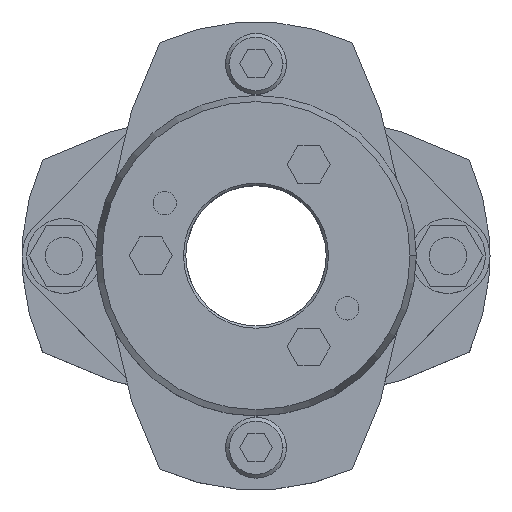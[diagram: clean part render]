
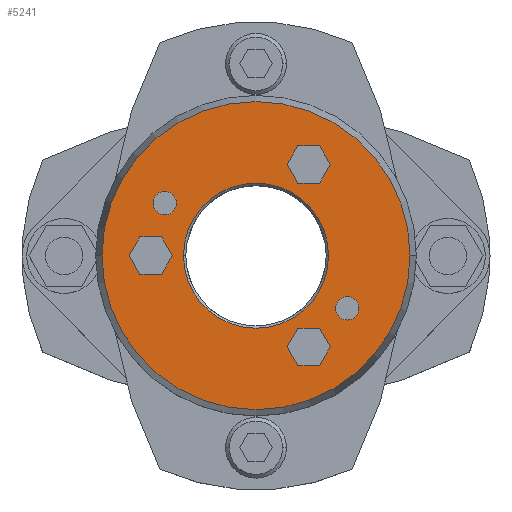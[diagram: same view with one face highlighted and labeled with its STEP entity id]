
A CAD part, top view. The second image highlights one B-rep face of the part: STEP entity #5241.
In plain terms, the highlighted planar face has unit normal (0, 0, 1).
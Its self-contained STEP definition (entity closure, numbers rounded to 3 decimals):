
#857=CARTESIAN_POINT('',(-15.5,0.,42.0));
#858=VERTEX_POINT('',#857);
#874=CARTESIAN_POINT('',(15.5,0.,42.0));
#875=VERTEX_POINT('',#874);
#882=CARTESIAN_POINT('',(0.,0.,42.0));
#883=DIRECTION('',(0.0,0.0,1.0));
#884=DIRECTION('',(-1.0,0.0,0.0));
#885=AXIS2_PLACEMENT_3D('',#882,#883,#884);
#886=CIRCLE('',#885,15.5);
#887=EDGE_CURVE('',#875,#858,#886,.T.);
#1045=CARTESIAN_POINT('',(32.91,0.,42.0));
#1046=VERTEX_POINT('',#1045);
#1053=CARTESIAN_POINT('',(-32.91,0.,42.0));
#1054=VERTEX_POINT('',#1053);
#1055=CARTESIAN_POINT('',(0.,0.,42.0));
#1056=DIRECTION('',(0.0,0.0,-1.0));
#1057=DIRECTION('',(1.0,0.0,0.0));
#1058=AXIS2_PLACEMENT_3D('',#1055,#1056,#1057);
#1059=CIRCLE('',#1058,32.91);
#1060=EDGE_CURVE('',#1046,#1054,#1059,.T.);
#1155=CARTESIAN_POINT('',(16.986,-11.25,42.0));
#1156=VERTEX_POINT('',#1155);
#1172=CARTESIAN_POINT('',(21.986,-11.25,42.0));
#1173=VERTEX_POINT('',#1172);
#1180=CARTESIAN_POINT('',(19.486,-11.25,42.0));
#1181=DIRECTION('',(0.0,0.0,-1.0));
#1182=DIRECTION('',(-1.0,0.0,0.0));
#1183=AXIS2_PLACEMENT_3D('',#1180,#1181,#1182);
#1184=CIRCLE('',#1183,2.5);
#1185=EDGE_CURVE('',#1156,#1173,#1184,.T.);
#1197=CARTESIAN_POINT('',(-21.986,11.25,42.0));
#1198=VERTEX_POINT('',#1197);
#1214=CARTESIAN_POINT('',(-16.986,11.25,42.0));
#1215=VERTEX_POINT('',#1214);
#1222=CARTESIAN_POINT('',(-19.486,11.25,42.0));
#1223=DIRECTION('',(0.0,0.0,-1.0));
#1224=DIRECTION('',(-1.0,0.0,0.0));
#1225=AXIS2_PLACEMENT_3D('',#1222,#1223,#1224);
#1226=CIRCLE('',#1225,2.5);
#1227=EDGE_CURVE('',#1198,#1215,#1226,.T.);
#4268=CARTESIAN_POINT('',(-19.486,11.25,42.0));
#4269=DIRECTION('',(0.0,0.0,-1.0));
#4270=DIRECTION('',(-1.0,0.0,0.0));
#4271=AXIS2_PLACEMENT_3D('',#4268,#4269,#4270);
#4272=CIRCLE('',#4271,2.5);
#4273=EDGE_CURVE('',#1215,#1198,#4272,.T.);
#4302=CARTESIAN_POINT('',(19.486,-11.25,42.0));
#4303=DIRECTION('',(0.0,0.0,-1.0));
#4304=DIRECTION('',(-1.0,0.0,0.0));
#4305=AXIS2_PLACEMENT_3D('',#4302,#4303,#4304);
#4306=CIRCLE('',#4305,2.5);
#4307=EDGE_CURVE('',#1173,#1156,#4306,.T.);
#4345=CARTESIAN_POINT('',(-27.119,0.,42.0));
#4346=VERTEX_POINT('',#4345);
#4353=CARTESIAN_POINT('',(-24.809,-4.,42.0));
#4354=VERTEX_POINT('',#4353);
#4355=CARTESIAN_POINT('',(-24.809,-4.,42.0));
#4356=DIRECTION('',(-0.5,0.866,0.0));
#4357=VECTOR('',#4356,4.619);
#4358=LINE('',#4355,#4357);
#4359=EDGE_CURVE('',#4354,#4346,#4358,.T.);
#4383=CARTESIAN_POINT('',(-24.809,4.,42.0));
#4384=VERTEX_POINT('',#4383);
#4391=CARTESIAN_POINT('',(-27.119,0.,42.0));
#4392=DIRECTION('',(0.5,0.866,0.0));
#4393=VECTOR('',#4392,4.619);
#4394=LINE('',#4391,#4393);
#4395=EDGE_CURVE('',#4346,#4384,#4394,.T.);
#4414=CARTESIAN_POINT('',(-20.191,4.,42.0));
#4415=VERTEX_POINT('',#4414);
#4422=CARTESIAN_POINT('',(-24.809,4.,42.0));
#4423=DIRECTION('',(1.0,0.0,0.0));
#4424=VECTOR('',#4423,4.619);
#4425=LINE('',#4422,#4424);
#4426=EDGE_CURVE('',#4384,#4415,#4425,.T.);
#4445=CARTESIAN_POINT('',(-17.881,0.,42.0));
#4446=VERTEX_POINT('',#4445);
#4453=CARTESIAN_POINT('',(-20.191,4.,42.0));
#4454=DIRECTION('',(0.5,-0.866,0.0));
#4455=VECTOR('',#4454,4.619);
#4456=LINE('',#4453,#4455);
#4457=EDGE_CURVE('',#4415,#4446,#4456,.T.);
#4476=CARTESIAN_POINT('',(-20.191,-4.,42.0));
#4477=VERTEX_POINT('',#4476);
#4484=CARTESIAN_POINT('',(-17.881,0.,42.0));
#4485=DIRECTION('',(-0.5,-0.866,0.0));
#4486=VECTOR('',#4485,4.619);
#4487=LINE('',#4484,#4486);
#4488=EDGE_CURVE('',#4446,#4477,#4487,.T.);
#4506=CARTESIAN_POINT('',(-20.191,-4.,42.0));
#4507=DIRECTION('',(-1.0,0.0,0.0));
#4508=VECTOR('',#4507,4.619);
#4509=LINE('',#4506,#4508);
#4510=EDGE_CURVE('',#4477,#4354,#4509,.T.);
#4545=CARTESIAN_POINT('',(6.631,19.486,42.0));
#4546=VERTEX_POINT('',#4545);
#4553=CARTESIAN_POINT('',(8.941,15.486,42.0));
#4554=VERTEX_POINT('',#4553);
#4555=CARTESIAN_POINT('',(8.941,15.486,42.0));
#4556=DIRECTION('',(-0.5,0.866,0.0));
#4557=VECTOR('',#4556,4.619);
#4558=LINE('',#4555,#4557);
#4559=EDGE_CURVE('',#4554,#4546,#4558,.T.);
#4583=CARTESIAN_POINT('',(8.941,23.486,42.0));
#4584=VERTEX_POINT('',#4583);
#4591=CARTESIAN_POINT('',(6.631,19.486,42.0));
#4592=DIRECTION('',(0.5,0.866,0.0));
#4593=VECTOR('',#4592,4.619);
#4594=LINE('',#4591,#4593);
#4595=EDGE_CURVE('',#4546,#4584,#4594,.T.);
#4614=CARTESIAN_POINT('',(13.559,23.486,42.0));
#4615=VERTEX_POINT('',#4614);
#4622=CARTESIAN_POINT('',(8.941,23.486,42.0));
#4623=DIRECTION('',(1.0,0.0,0.0));
#4624=VECTOR('',#4623,4.619);
#4625=LINE('',#4622,#4624);
#4626=EDGE_CURVE('',#4584,#4615,#4625,.T.);
#4645=CARTESIAN_POINT('',(15.869,19.486,42.0));
#4646=VERTEX_POINT('',#4645);
#4653=CARTESIAN_POINT('',(13.559,23.486,42.0));
#4654=DIRECTION('',(0.5,-0.866,0.0));
#4655=VECTOR('',#4654,4.619);
#4656=LINE('',#4653,#4655);
#4657=EDGE_CURVE('',#4615,#4646,#4656,.T.);
#4676=CARTESIAN_POINT('',(13.559,15.486,42.0));
#4677=VERTEX_POINT('',#4676);
#4684=CARTESIAN_POINT('',(15.869,19.486,42.0));
#4685=DIRECTION('',(-0.5,-0.866,0.0));
#4686=VECTOR('',#4685,4.619);
#4687=LINE('',#4684,#4686);
#4688=EDGE_CURVE('',#4646,#4677,#4687,.T.);
#4706=CARTESIAN_POINT('',(13.559,15.486,42.0));
#4707=DIRECTION('',(-1.0,0.0,0.0));
#4708=VECTOR('',#4707,4.619);
#4709=LINE('',#4706,#4708);
#4710=EDGE_CURVE('',#4677,#4554,#4709,.T.);
#4745=CARTESIAN_POINT('',(6.631,-19.486,42.0));
#4746=VERTEX_POINT('',#4745);
#4753=CARTESIAN_POINT('',(8.941,-23.486,42.0));
#4754=VERTEX_POINT('',#4753);
#4755=CARTESIAN_POINT('',(8.941,-23.486,42.0));
#4756=DIRECTION('',(-0.5,0.866,0.0));
#4757=VECTOR('',#4756,4.619);
#4758=LINE('',#4755,#4757);
#4759=EDGE_CURVE('',#4754,#4746,#4758,.T.);
#4783=CARTESIAN_POINT('',(8.941,-15.486,42.0));
#4784=VERTEX_POINT('',#4783);
#4791=CARTESIAN_POINT('',(6.631,-19.486,42.0));
#4792=DIRECTION('',(0.5,0.866,0.0));
#4793=VECTOR('',#4792,4.619);
#4794=LINE('',#4791,#4793);
#4795=EDGE_CURVE('',#4746,#4784,#4794,.T.);
#4814=CARTESIAN_POINT('',(13.559,-15.486,42.0));
#4815=VERTEX_POINT('',#4814);
#4822=CARTESIAN_POINT('',(8.941,-15.486,42.0));
#4823=DIRECTION('',(1.0,0.0,0.0));
#4824=VECTOR('',#4823,4.619);
#4825=LINE('',#4822,#4824);
#4826=EDGE_CURVE('',#4784,#4815,#4825,.T.);
#4845=CARTESIAN_POINT('',(15.869,-19.486,42.0));
#4846=VERTEX_POINT('',#4845);
#4853=CARTESIAN_POINT('',(13.559,-15.486,42.0));
#4854=DIRECTION('',(0.5,-0.866,0.0));
#4855=VECTOR('',#4854,4.619);
#4856=LINE('',#4853,#4855);
#4857=EDGE_CURVE('',#4815,#4846,#4856,.T.);
#4876=CARTESIAN_POINT('',(13.559,-23.486,42.0));
#4877=VERTEX_POINT('',#4876);
#4884=CARTESIAN_POINT('',(15.869,-19.486,42.0));
#4885=DIRECTION('',(-0.5,-0.866,0.0));
#4886=VECTOR('',#4885,4.619);
#4887=LINE('',#4884,#4886);
#4888=EDGE_CURVE('',#4846,#4877,#4887,.T.);
#4906=CARTESIAN_POINT('',(13.559,-23.486,42.0));
#4907=DIRECTION('',(-1.0,0.0,0.0));
#4908=VECTOR('',#4907,4.619);
#4909=LINE('',#4906,#4908);
#4910=EDGE_CURVE('',#4877,#4754,#4909,.T.);
#5180=CARTESIAN_POINT('',(0.,0.,42.0));
#5181=DIRECTION('',(0.0,0.0,-1.0));
#5182=DIRECTION('',(1.0,0.0,0.0));
#5183=AXIS2_PLACEMENT_3D('',#5180,#5181,#5182);
#5184=CIRCLE('',#5183,32.91);
#5185=EDGE_CURVE('',#1054,#1046,#5184,.T.);
#5190=CARTESIAN_POINT('',(-3.114,0.,42.0));
#5191=DIRECTION('',(0.0,0.0,1.0));
#5192=DIRECTION('',(-1.0,0.0,0.0));
#5193=AXIS2_PLACEMENT_3D('',#5190,#5191,#5192);
#5194=PLANE('',#5193);
#5195=ORIENTED_EDGE('',*,*,#5185,.F.);
#5196=ORIENTED_EDGE('',*,*,#1060,.F.);
#5197=EDGE_LOOP('',(#5195,#5196));
#5198=FACE_OUTER_BOUND('',#5197,.T.);
#5199=ORIENTED_EDGE('',*,*,#1227,.T.);
#5200=ORIENTED_EDGE('',*,*,#4273,.T.);
#5201=EDGE_LOOP('',(#5199,#5200));
#5202=FACE_BOUND('',#5201,.T.);
#5203=ORIENTED_EDGE('',*,*,#1185,.T.);
#5204=ORIENTED_EDGE('',*,*,#4307,.T.);
#5205=EDGE_LOOP('',(#5203,#5204));
#5206=FACE_BOUND('',#5205,.T.);
#5207=ORIENTED_EDGE('',*,*,#4359,.T.);
#5208=ORIENTED_EDGE('',*,*,#4395,.T.);
#5209=ORIENTED_EDGE('',*,*,#4426,.T.);
#5210=ORIENTED_EDGE('',*,*,#4457,.T.);
#5211=ORIENTED_EDGE('',*,*,#4488,.T.);
#5212=ORIENTED_EDGE('',*,*,#4510,.T.);
#5213=EDGE_LOOP('',(#5207,#5208,#5209,#5210,#5211,#5212));
#5214=FACE_BOUND('',#5213,.T.);
#5215=ORIENTED_EDGE('',*,*,#4559,.T.);
#5216=ORIENTED_EDGE('',*,*,#4595,.T.);
#5217=ORIENTED_EDGE('',*,*,#4626,.T.);
#5218=ORIENTED_EDGE('',*,*,#4657,.T.);
#5219=ORIENTED_EDGE('',*,*,#4688,.T.);
#5220=ORIENTED_EDGE('',*,*,#4710,.T.);
#5221=EDGE_LOOP('',(#5215,#5216,#5217,#5218,#5219,#5220));
#5222=FACE_BOUND('',#5221,.T.);
#5223=ORIENTED_EDGE('',*,*,#4759,.T.);
#5224=ORIENTED_EDGE('',*,*,#4795,.T.);
#5225=ORIENTED_EDGE('',*,*,#4826,.T.);
#5226=ORIENTED_EDGE('',*,*,#4857,.T.);
#5227=ORIENTED_EDGE('',*,*,#4888,.T.);
#5228=ORIENTED_EDGE('',*,*,#4910,.T.);
#5229=EDGE_LOOP('',(#5223,#5224,#5225,#5226,#5227,#5228));
#5230=FACE_BOUND('',#5229,.T.);
#5231=ORIENTED_EDGE('',*,*,#887,.F.);
#5232=CARTESIAN_POINT('',(0.,0.,42.0));
#5233=DIRECTION('',(0.0,0.0,1.0));
#5234=DIRECTION('',(-1.0,0.0,0.0));
#5235=AXIS2_PLACEMENT_3D('',#5232,#5233,#5234);
#5236=CIRCLE('',#5235,15.5);
#5237=EDGE_CURVE('',#858,#875,#5236,.T.);
#5238=ORIENTED_EDGE('',*,*,#5237,.F.);
#5239=EDGE_LOOP('',(#5231,#5238));
#5240=FACE_BOUND('',#5239,.T.);
#5241=ADVANCED_FACE('',(#5198,#5202,#5206,#5214,#5222,#5230,#5240),#5194,.T.);
